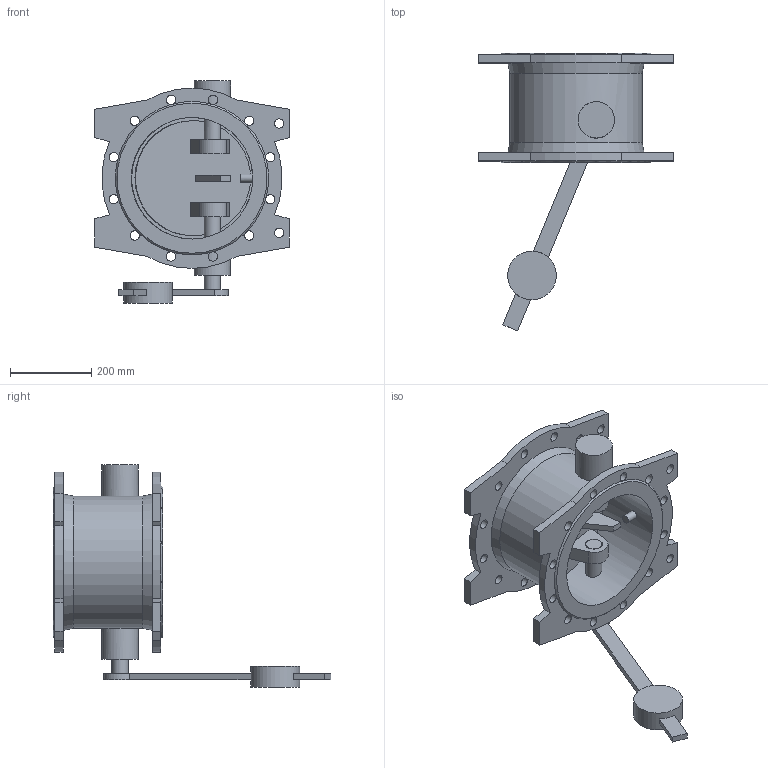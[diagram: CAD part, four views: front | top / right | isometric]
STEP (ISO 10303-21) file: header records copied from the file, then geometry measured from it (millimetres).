
FILE_DESCRIPTION(('STEP AP203'), '1');
FILE_NAME('Êëàïàí 015F.PV DN300 PN10 ñ ïðîòèâîâåñîì', '', ('UNSPECIFIED'), ('UNSPECIFIED'), 'ASCON STEP Converter 1.6', 'ASCON Math Kernel', '');
FILE_SCHEMA(('CONFIG_CONTROL_DESIGN'));
Length unit declared in the file: millimetre
Bounding box: 480 x 685 x 548 mm (x, y, z)
Volume: 10870441.4 mm3; surface area: 1352930 mm2
Topology: 1 solids, 1 shells, 120 faces, 369 edges, 245 vertices
Faces by surface type: plane 63, cylinder 50, cone 4, extrusion 2, bspline 1
Full cylindrical faces by diameter (mm): 20 x1, 23 x28, 40 x3, 42 x2, 90 x2, 120 x1, 300 x1, 326 x1
Entity records: 6934 total; most frequent: CARTESIAN_POINT 2630, DIRECTION 674, ORIENTED_EDGE 644, EDGE_CURVE 322, AXIS2_PLACEMENT_3D 271, VERTEX_POINT 244, EDGE_LOOP 222, FACE_BOUND 158
